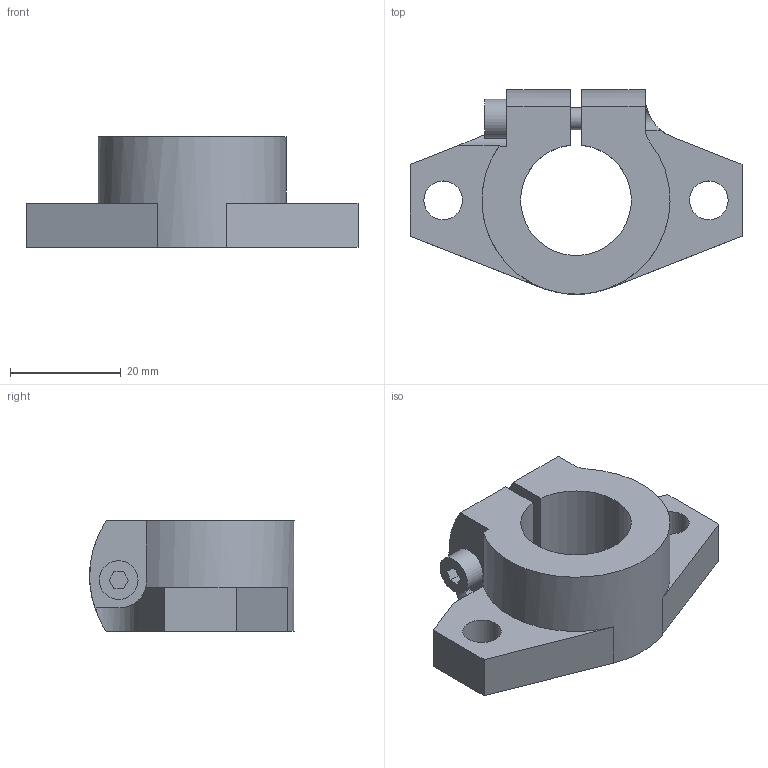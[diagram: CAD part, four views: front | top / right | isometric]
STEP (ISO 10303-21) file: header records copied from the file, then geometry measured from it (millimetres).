
FILE_DESCRIPTION(('STEP AP203'),'1');
FILE_NAME('//192.168.1.1/share/s-4 技術開発/s-4-14_個人別フォルダ/橋詰/09_CAD_DATA/3D/HP用/3Ｄモデル/SNF/SNF-20A.step','2021-09-16T23:48:21',(' '),(' '),'Spatial InterOp 3D',' ',' ');
FILE_SCHEMA(('CONFIG_CONTROL_DESIGN'));
Length unit declared in the file: millimetre
Products named in the file (2): 1; 2
Bounding box: 60 x 36.97 x 20 mm (x, y, z)
Volume: 17212.9 mm3; surface area: 7585.4 mm2
Topology: 2 solids, 2 shells, 43 faces, 116 edges, 78 vertices
Faces by surface type: plane 27, cylinder 15, cone 1
Full cylindrical faces by diameter (mm): 4 x2, 4.2 x1, 5.5 x1, 7 x3
Entity records: 1440 total; most frequent: CARTESIAN_POINT 298, DIRECTION 218, ORIENTED_EDGE 206, EDGE_CURVE 103, AXIS2_PLACEMENT_3D 77, VERTEX_POINT 73, LINE 64, VECTOR 64
